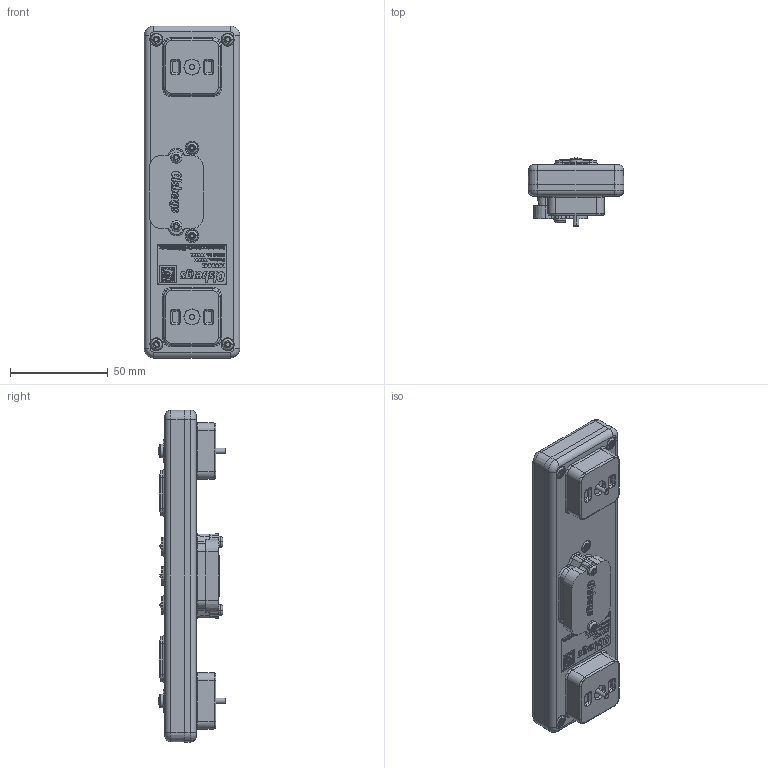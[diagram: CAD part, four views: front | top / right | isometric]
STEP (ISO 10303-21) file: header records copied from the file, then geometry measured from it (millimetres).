
FILE_DESCRIPTION (( 'STEP AP203' ), '1' );
FILE_NAME ('S-1205.STEP', '2018-05-28T09:37:06', ( '' ), ( '' ), 'SwSTEP 2.0', 'SolidWorks 2018', '' );
FILE_SCHEMA (( 'CONFIG_CONTROL_DESIGN' ));
Products named in the file (1): S-1205
Bounding box: 49 x 34.66 x 170 mm (x, y, z)
Volume: 154796.4 mm3; surface area: 35044.2 mm2
Topology: 1 solids, 14 shells, 1816 faces, 5906 edges, 4351 vertices
Faces by surface type: plane 700, bspline 442, cylinder 390, cone 148, torus 122, sphere 14
Entity records: 82690 total; most frequent: CARTESIAN_POINT 34041, ORIENTED_EDGE 11800, DIRECTION 7808, EDGE_CURVE 5900, VERTEX_POINT 4351, LINE 2636, VECTOR 2636, AXIS2_PLACEMENT_3D 2586
